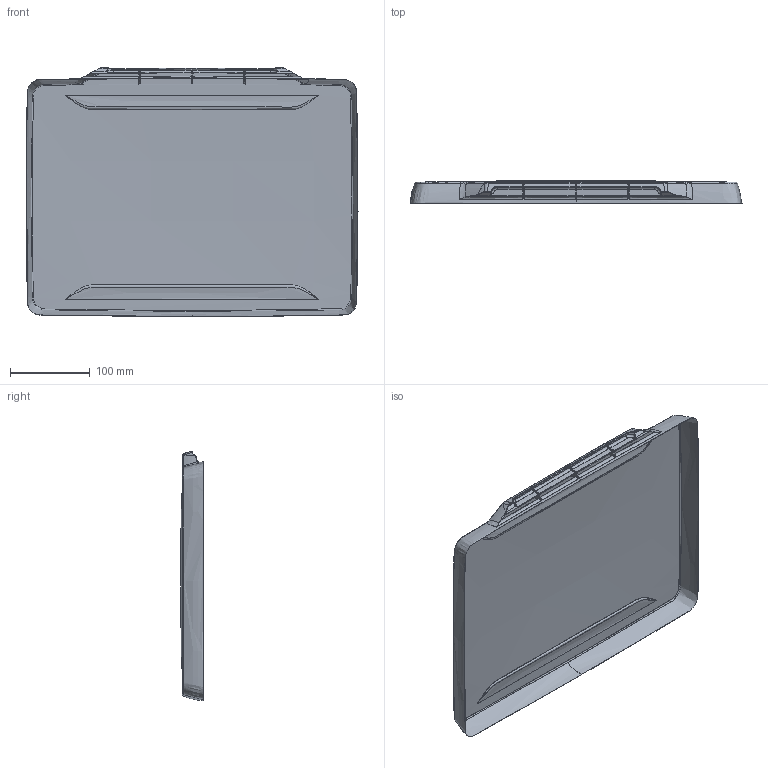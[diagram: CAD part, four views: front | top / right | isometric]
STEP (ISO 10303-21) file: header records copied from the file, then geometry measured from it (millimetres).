
FILE_DESCRIPTION (( 'STEP AP214' ), '1' );
FILE_NAME ('1091-932T-CLR OEM.STEP', '2013-03-27T20:14:27', ( 'peli' ), ( '' ), 'SwSTEP 2.0', 'SolidWorks 2011', '' );
FILE_SCHEMA (( 'AUTOMOTIVE_DESIGN' ));
Length unit declared in the file: inch
Products named in the file (1): 1091-932T-CLR  OEM
Bounding box: 416.25 x 28.56 x 312.56 mm (x, y, z)
Volume: 44944.3 mm3; surface area: 314681.6 mm2
Topology: 1 solids, 1 shells, 424 faces, 1029 edges, 551 vertices
Faces by surface type: bspline 365, plane 35, cylinder 24
Entity records: 52387 total; most frequent: CARTESIAN_POINT 40045, ORIENTED_EDGE 1986, EDGE_CURVE 993, B_SPLINE_CURVE_WITH_KNOTS 641, DIRECTION 567, VERTEX_POINT 551, EDGE_LOOP 428, UNCERTAINTY_MEASURE_WITH_UNIT 427
